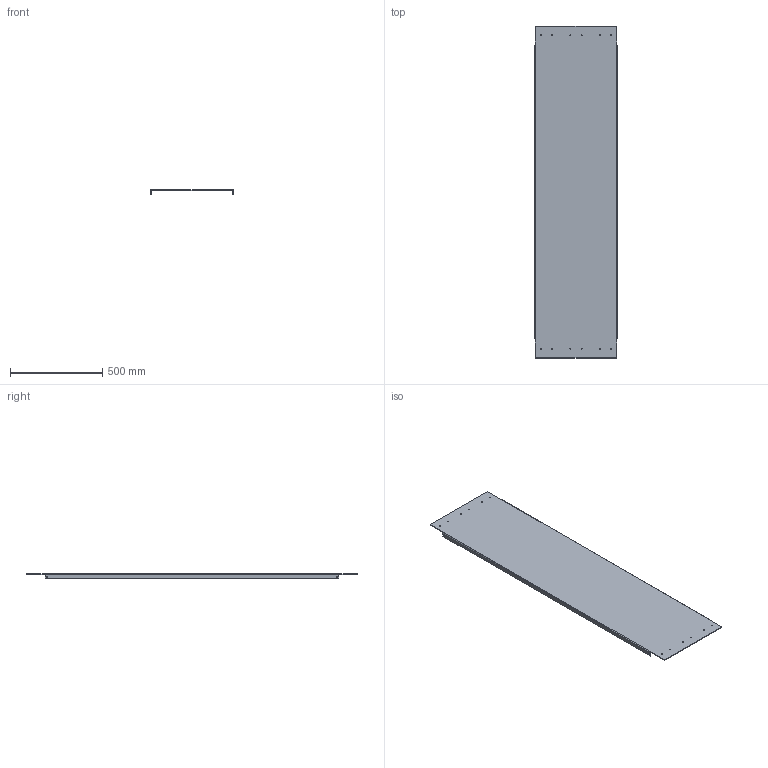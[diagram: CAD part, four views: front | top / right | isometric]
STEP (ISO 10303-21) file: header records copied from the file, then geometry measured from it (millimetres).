
FILE_DESCRIPTION(('HOOPS Exchange Step'),'2;1');
FILE_NAME('/private/var/mobile/Containers/Data/Application/E4481369-A8C6-45C6-A958-B1853E49479D/tmp/export/temp_export','2021-04-12T21:16:53+00:00',('mobile'),('Shapr3D Limited'),'HOOPS Exchange 2020.2','Shapr3D','Authorized');
FILE_SCHEMA( ('AP203_CONFIGURATION_CONTROLLED_3D_DESIGN_OF_MECHANICAL_PARTS_AND_ASSEMBLIES_MIM_LF') );
Length unit declared in the file: millimetre
Products named in the file (2): 0; /private/var/mobile/Containers/Data/Application/E4481369-A8C6-45C6-A958-B1853E49479D/tmp/9E1EF4F8-88E0-4702-96CB-C1267C078D47.tmp
Assembly tree (1 placements, depth 2):
  /private/var/mobile/Containers/Data/Application/E4481369-A8C6-45C6-A958-B1853E49479D/tmp/9E1EF4F8-88E0-4702-96CB-C1267C078D47.tmp
    0
Bounding box: 450 x 1800 x 24 mm (x, y, z)
Volume: 3468634.9 mm3; surface area: 1753648.7 mm2
Topology: 1 solids, 1 shells, 46 faces, 144 edges, 100 vertices
Faces by surface type: cylinder 28, plane 18
Full cylindrical faces by diameter (mm): 5.2 x16
Entity records: 1771 total; most frequent: DIRECTION 318, CARTESIAN_POINT 293, ORIENTED_EDGE 288, EDGE_CURVE 144, AXIS2_PLACEMENT_3D 125, VERTEX_POINT 100, EDGE_LOOP 78, FACE_BOUND 78
